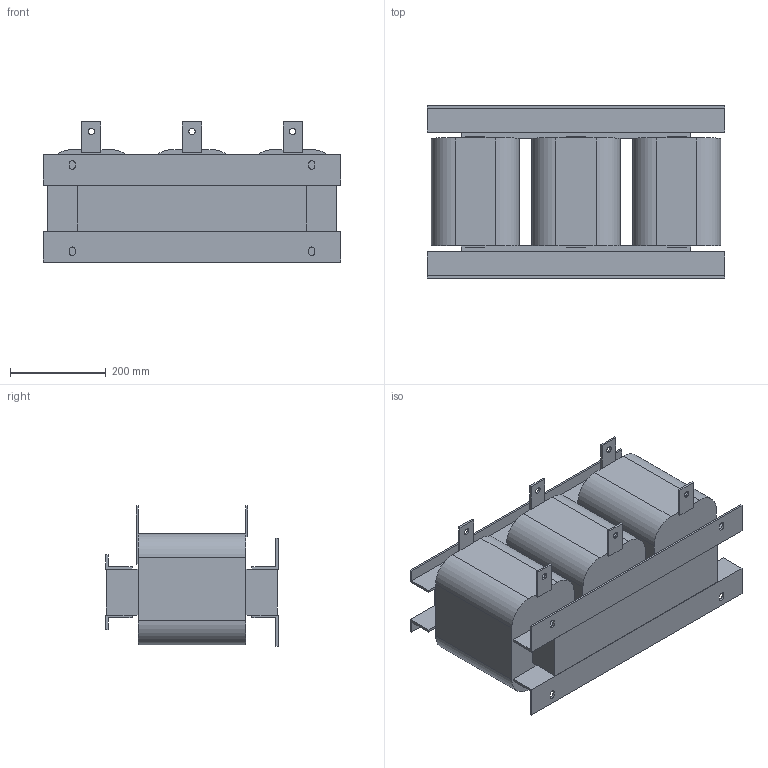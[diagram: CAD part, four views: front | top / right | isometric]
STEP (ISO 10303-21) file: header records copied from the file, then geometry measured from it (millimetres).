
FILE_DESCRIPTION(/* description */ (''),/* implementation_level */ '2;1');
FILE_NAME(/* name */ 'E:\Работа\Веда МК (Данфосс)\!Текущие задачи\2024.08.30 3D модели\Дроссели\+ACO 4-проц 660 В\STP\ACO-0380-T6-4.stp',/* time_stamp */ '2024-10-14T07:49:24+04:00',/* author */ ('Александр (огранич)'),/* organization */ (''),/* preprocessor_version */ 'ST-DEVELOPER v18.1',/* originating_system */ 'Autodesk Inventor 2021',/* authorisation */ '');
FILE_SCHEMA (('AUTOMOTIVE_DESIGN { 1 0 10303 214 3 1 1 }'));
Length unit declared in the file: millimetre
Products named in the file (1): ACO-0015-T4-4
Bounding box: 620 x 360 x 292.5 mm (x, y, z)
Volume: 34736437.4 mm3; surface area: 1257597.7 mm2
Topology: 1 solids, 1 shells, 136 faces, 381 edges, 243 vertices
Faces by surface type: plane 110, cylinder 26
Full cylindrical faces by diameter (mm): 13 x6
Entity records: 4385 total; most frequent: ORIENTED_EDGE 762, CARTESIAN_POINT 761, DIRECTION 710, EDGE_CURVE 381, LINE 326, VECTOR 326, VERTEX_POINT 243, AXIS2_PLACEMENT_3D 192
